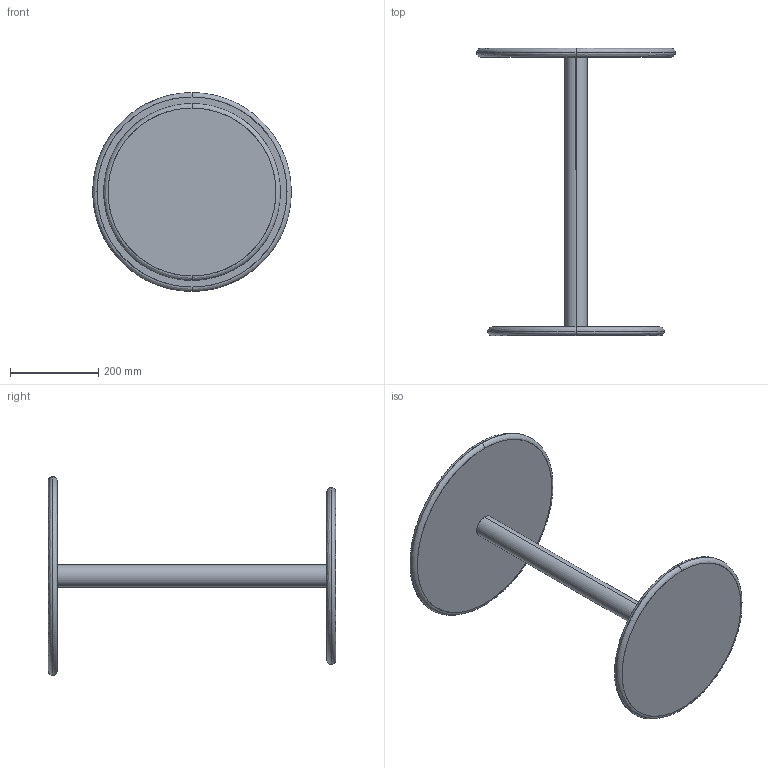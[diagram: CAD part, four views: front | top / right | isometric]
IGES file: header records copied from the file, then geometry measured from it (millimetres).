
Start section: SolidWorks IGES file using analytic representation for surfaces
Global section: file name: C:\Users\Usuario\Dropbox\Viccarbe\PRODUCTOS\5- Common mesa\Web\3D\iges\Common mesa_Mesa 650.IGS; native system: SolidWorks 2013; preprocessor: SolidWorks 2013; author: Usuario; date: 130604.113812; units: millimetre
Bounding box: 449.84 x 650 x 450 mm (x, y, z)
Surface area: 699466.2 mm2 (no closed solid volume)
Topology: 0 solids, 0 shells, 16 faces, 424 edges, 424 vertices
Faces by surface type: bspline 14, revolution 2
